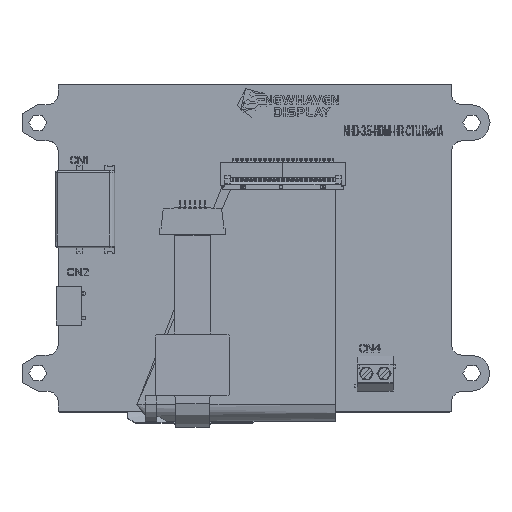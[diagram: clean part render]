
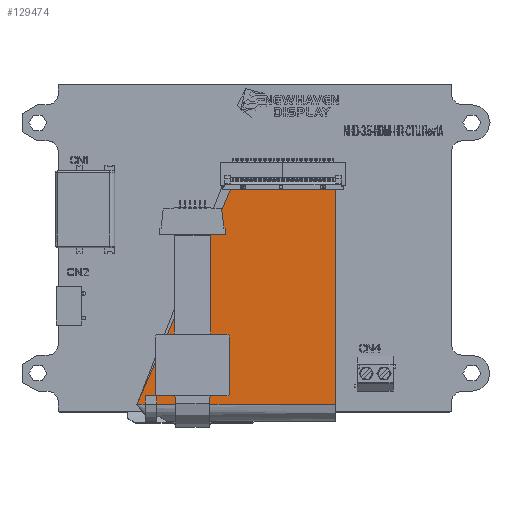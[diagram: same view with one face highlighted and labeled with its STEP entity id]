
A CAD part, top view. The second image highlights one B-rep face of the part: STEP entity #129474.
In plain terms, the highlighted planar face has unit normal (0, -0.011, 1).
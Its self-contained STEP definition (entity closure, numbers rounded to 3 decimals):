
#1446 = CARTESIAN_POINT ( 'NONE',  ( 9.045, 11.687, 77.092 ) ) ;
#1632 = CARTESIAN_POINT ( 'NONE',  ( 43.98, 11.687, 77.092 ) ) ;
#6598 = B_SPLINE_CURVE_WITH_KNOTS ( 'NONE', 3,
 ( #202279, #153626, #222522, #29651 ),
 .UNSPECIFIED., .F., .F.,
 ( 4, 4 ),
 ( 0., 1. ),
 .UNSPECIFIED. ) ;
#11999 = CARTESIAN_POINT ( 'NONE',  ( 23.48, 19.701, 77.176 ) ) ;
#16136 = ORIENTED_EDGE ( 'NONE', *, *, #47444, .T. ) ;
#16416 = CARTESIAN_POINT ( 'NONE',  ( 5.159, 18.287, 77.161 ) ) ;
#17721 = CARTESIAN_POINT ( 'NONE',  ( 9.045, 13.376, 77.11 ) ) ;
#20232 = CARTESIAN_POINT ( 'NONE',  ( 30.313, 53.685, 77.532 ) ) ;
#23051 = CARTESIAN_POINT ( 'NONE',  ( 9.045, 13.376, 77.11 ) ) ;
#27199 = FACE_OUTER_BOUND ( 'NONE', #173289, .T. ) ;
#29295 = VECTOR ( 'NONE', #105214, 1000. ) ;
#29651 = CARTESIAN_POINT ( 'NONE',  ( 43.98, 53.685, 77.532 ) ) ;
#32825 = B_SPLINE_CURVE_WITH_KNOTS ( 'NONE', 3,
 ( #34702, #119319, #102362, #175695 ),
 .UNSPECIFIED., .F., .F.,
 ( 4, 4 ),
 ( 0., 1. ),
 .UNSPECIFIED. ) ;
#33121 = CARTESIAN_POINT ( 'NONE',  ( 44.02, 11.687, 77.092 ) ) ;
#33486 = ORIENTED_EDGE ( 'NONE', *, *, #206283, .F. ) ;
#34702 = CARTESIAN_POINT ( 'NONE',  ( 6.745, 13.376, 77.11 ) ) ;
#36341 = ORIENTED_EDGE ( 'NONE', *, *, #133109, .T. ) ;
#44140 = DIRECTION ( 'NONE',  ( 0., -0.01, 1. ) ) ;
#47444 = EDGE_CURVE ( 'NONE', #77258, #193969, #139786, .T. ) ;
#50263 = CARTESIAN_POINT ( 'NONE',  ( 11.599, 19.287, 77.172 ) ) ;
#52344 = CARTESIAN_POINT ( 'NONE',  ( 5.159, 11.687, 77.092 ) ) ;
#53921 = EDGE_CURVE ( 'NONE', #124308, #130983, #6598, .T. ) ;
#54094 = ORIENTED_EDGE ( 'NONE', *, *, #143622, .T. ) ;
#60506 = LINE ( 'NONE', #129310, #111061 ) ;
#62051 = CARTESIAN_POINT ( 'NONE',  ( 6.745, 13.376, 77.11 ) ) ;
#64727 = LINE ( 'NONE', #33121, #29295 ) ;
#67664 = CARTESIAN_POINT ( 'NONE',  ( 23.48, 53.685, 77.532 ) ) ;
#77258 = VERTEX_POINT ( 'NONE', #97620 ) ;
#78876 = ORIENTED_EDGE ( 'NONE', *, *, #165976, .F. ) ;
#81840 = CARTESIAN_POINT ( 'NONE',  ( 6.159, 19.287, 77.172 ) ) ;
#84250 = CARTESIAN_POINT ( 'NONE',  ( 7.511, 13.376, 77.11 ) ) ;
#97620 = CARTESIAN_POINT ( 'NONE',  ( 9.045, 13.376, 77.11 ) ) ;
#97679 = CARTESIAN_POINT ( 'NONE',  ( 23.48, 20.287, 77.182 ) ) ;
#101747 = ORIENTED_EDGE ( 'NONE', *, *, #53921, .T. ) ;
#102362 = CARTESIAN_POINT ( 'NONE',  ( 6.745, 12.25, 77.098 ) ) ;
#105214 = DIRECTION ( 'NONE',  ( -1., 0., 0. ) ) ;
#108064 = VERTEX_POINT ( 'NONE', #62051 ) ;
#109490 = CARTESIAN_POINT ( 'NONE',  ( 6.745, 11.687, 77.092 ) ) ;
#110748 = B_SPLINE_CURVE_WITH_KNOTS ( 'NONE', 3,
 ( #17721, #120313, #84250, #190315 ),
 .UNSPECIFIED., .F., .F.,
 ( 4, 4 ),
 ( 0., 1. ),
 .UNSPECIFIED. ) ;
#111061 = VECTOR ( 'NONE', #112352, 1000. ) ;
#112352 = DIRECTION ( 'NONE',  ( -1., 0., 0. ) ) ;
#114621 = CARTESIAN_POINT ( 'NONE',  ( 23.48, 42.552, 77.415 ) ) ;
#115729 = CARTESIAN_POINT ( 'NONE',  ( 22.48, 19.287, 77.172 ) ) ;
#117938 = CARTESIAN_POINT ( 'NONE',  ( 5.573, 19.287, 77.172 ) ) ;
#119052 = CARTESIAN_POINT ( 'NONE',  ( 5.159, 18.873, 77.167 ) ) ;
#119319 = CARTESIAN_POINT ( 'NONE',  ( 6.745, 12.813, 77.104 ) ) ;
#120313 = CARTESIAN_POINT ( 'NONE',  ( 8.278, 13.376, 77.11 ) ) ;
#124308 = VERTEX_POINT ( 'NONE', #1632 ) ;
#127616 = CARTESIAN_POINT ( 'NONE',  ( 7.495, 11.177, 77.087 ) ) ;
#129310 = CARTESIAN_POINT ( 'NONE',  ( 6.75, 11.687, 77.092 ) ) ;
#129474 = ADVANCED_FACE ( 'NONE', ( #27199 ), #197602, .T. ) ;
#130983 = VERTEX_POINT ( 'NONE', #151972 ) ;
#133109 = EDGE_CURVE ( 'NONE', #143408, #187142, #157052, .T. ) ;
#138186 = CARTESIAN_POINT ( 'NONE',  ( 17.039, 19.287, 77.172 ) ) ;
#139786 = B_SPLINE_CURVE_WITH_KNOTS ( 'NONE', 3,
 ( #23051, #215957, #180947, #161770 ),
 .UNSPECIFIED., .F., .F.,
 ( 4, 4 ),
 ( 0., 1. ),
 .UNSPECIFIED. ) ;
#143408 = VERTEX_POINT ( 'NONE', #67664 ) ;
#143622 = EDGE_CURVE ( 'NONE', #130983, #143408, #194861, .T. ) ;
#151818 = CARTESIAN_POINT ( 'NONE',  ( 5.159, 16.087, 77.138 ) ) ;
#151972 = CARTESIAN_POINT ( 'NONE',  ( 43.98, 53.685, 77.532 ) ) ;
#153626 = CARTESIAN_POINT ( 'NONE',  ( 43.98, 25.687, 77.239 ) ) ;
#155143 = CARTESIAN_POINT ( 'NONE',  ( 5.159, 13.887, 77.115 ) ) ;
#156714 = CARTESIAN_POINT ( 'NONE',  ( 37.146, 53.685, 77.532 ) ) ;
#157052 =( BOUNDED_CURVE ( )  B_SPLINE_CURVE ( 3, ( #200400, #114621, #183503, #97679, #11999, #201545, #115729, #138186, #50263, #81840, #117938, #119052, #16416, #151818, #155143, #222918 ),
 .UNSPECIFIED., .F., .F. ) 
 B_SPLINE_CURVE_WITH_KNOTS ( ( 4, 3, 3, 3, 3, 4 ),
 ( 0., 0.029, 0.031, 0.049, 0.051, 0.059 ),
 .UNSPECIFIED. ) 
 CURVE ( )  GEOMETRIC_REPRESENTATION_ITEM ( )  RATIONAL_B_SPLINE_CURVE ( ( 1., 1., 1., 1., 0.805, 0.805, 1., 1., 1., 1., 0.805, 0.805, 1., 1., 1., 1. ) ) 
 REPRESENTATION_ITEM ( '' )  );
#157843 = CARTESIAN_POINT ( 'NONE',  ( 23.48, 53.685, 77.532 ) ) ;
#161770 = CARTESIAN_POINT ( 'NONE',  ( 9.045, 11.687, 77.092 ) ) ;
#165976 = EDGE_CURVE ( 'NONE', #196757, #187142, #60506, .T. ) ;
#166856 = EDGE_CURVE ( 'NONE', #108064, #196757, #32825, .T. ) ;
#173289 = EDGE_LOOP ( 'NONE', ( #33486, #16136, #198972, #101747, #54094, #36341, #78876, #193677 ) ) ;
#175695 = CARTESIAN_POINT ( 'NONE',  ( 6.745, 11.687, 77.092 ) ) ;
#180947 = CARTESIAN_POINT ( 'NONE',  ( 9.045, 12.25, 77.098 ) ) ;
#183503 = CARTESIAN_POINT ( 'NONE',  ( 23.48, 31.42, 77.299 ) ) ;
#187142 = VERTEX_POINT ( 'NONE', #52344 ) ;
#190315 = CARTESIAN_POINT ( 'NONE',  ( 6.745, 13.376, 77.11 ) ) ;
#193677 = ORIENTED_EDGE ( 'NONE', *, *, #166856, .F. ) ;
#193969 = VERTEX_POINT ( 'NONE', #1446 ) ;
#194268 = DIRECTION ( 'NONE',  ( -1., 0., 0. ) ) ;
#194861 = B_SPLINE_CURVE_WITH_KNOTS ( 'NONE', 3,
 ( #210912, #156714, #20232, #157843 ),
 .UNSPECIFIED., .F., .F.,
 ( 4, 4 ),
 ( 0., 1. ),
 .UNSPECIFIED. ) ;
#196757 = VERTEX_POINT ( 'NONE', #109490 ) ;
#197602 = PLANE ( 'NONE',  #207050 ) ;
#198972 = ORIENTED_EDGE ( 'NONE', *, *, #213857, .F. ) ;
#200400 = CARTESIAN_POINT ( 'NONE',  ( 23.48, 53.685, 77.532 ) ) ;
#201545 = CARTESIAN_POINT ( 'NONE',  ( 23.065, 19.287, 77.172 ) ) ;
#202279 = CARTESIAN_POINT ( 'NONE',  ( 43.98, 11.687, 77.092 ) ) ;
#206283 = EDGE_CURVE ( 'NONE', #77258, #108064, #110748, .T. ) ;
#207050 = AXIS2_PLACEMENT_3D ( 'NONE', #127616, #44140, #194268 ) ;
#210912 = CARTESIAN_POINT ( 'NONE',  ( 43.98, 53.685, 77.532 ) ) ;
#213857 = EDGE_CURVE ( 'NONE', #124308, #193969, #64727, .T. ) ;
#215957 = CARTESIAN_POINT ( 'NONE',  ( 9.045, 12.813, 77.104 ) ) ;
#222522 = CARTESIAN_POINT ( 'NONE',  ( 43.98, 39.686, 77.385 ) ) ;
#222918 = CARTESIAN_POINT ( 'NONE',  ( 5.159, 11.687, 77.092 ) ) ;
